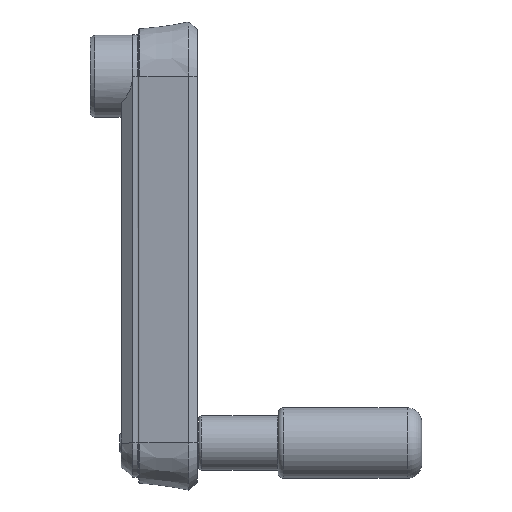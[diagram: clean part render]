
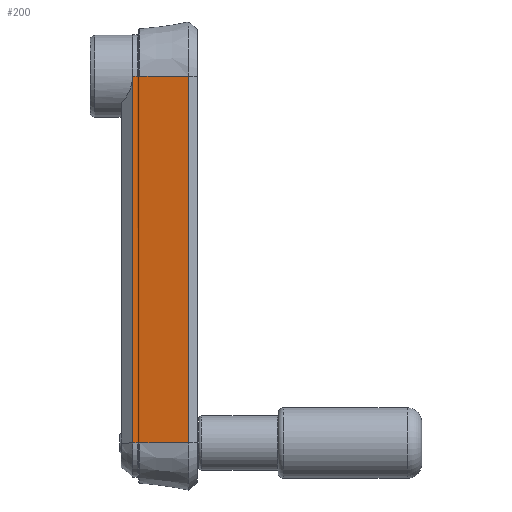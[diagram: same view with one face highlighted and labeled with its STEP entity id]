
A CAD part, top view. The second image highlights one B-rep face of the part: STEP entity #200.
In plain terms, the highlighted free-form (B-spline) face has degree [3, 1] with [12, 2] control points.
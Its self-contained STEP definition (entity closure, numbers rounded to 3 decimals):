
#200 = ADVANCED_FACE( '', ( #342 ), #343, .T. );
#342 = FACE_OUTER_BOUND( '', #599, .T. );
#343 = B_SPLINE_SURFACE_WITH_KNOTS( '', 3, 1, ( ( #600, #601 ), ( #602, #603 ), ( #604, #605 ), ( #606, #607 ), ( #608, #609 ), ( #610, #611 ), ( #612, #613 ), ( #614, #615 ), ( #616, #617 ), ( #618, #619 ), ( #620, #621 ), ( #622, #623 ) ), .UNSPECIFIED., .F., .F., .F., ( 4, 2, 2, 2, 2, 4 ), ( 2, 2 ), ( 0., 0.072, 0.11, 0.162, 0.196, 1. ), ( 0., 1. ), .UNSPECIFIED. );
#599 = EDGE_LOOP( '', ( #1016, #1017, #1018, #1019, #1020, #1021, #1022, #1023, #1024, #1025, #1026, #1027 ) );
#600 = CARTESIAN_POINT( '', ( -1.2, -125., 11.574 ) );
#601 = CARTESIAN_POINT( '', ( -1.2, 0., 14.1 ) );
#602 = CARTESIAN_POINT( '', ( -0.7, -125., 11.574 ) );
#603 = CARTESIAN_POINT( '', ( -0.7, 0., 14.1 ) );
#604 = CARTESIAN_POINT( '', ( -0.2, -125., 11.574 ) );
#605 = CARTESIAN_POINT( '', ( -0.2, 0., 14.1 ) );
#606 = CARTESIAN_POINT( '', ( 0.562, -125., 11.574 ) );
#607 = CARTESIAN_POINT( '', ( 0.562, 0., 14.1 ) );
#608 = CARTESIAN_POINT( '', ( 0.8, -125., 11.81 ) );
#609 = CARTESIAN_POINT( '', ( 0.8, 0., 14.34 ) );
#610 = CARTESIAN_POINT( '', ( 0.8, -125., 12.439 ) );
#611 = CARTESIAN_POINT( '', ( 0.8, 0., 14.96 ) );
#612 = CARTESIAN_POINT( '', ( 0.8, -125., 12.811 ) );
#613 = CARTESIAN_POINT( '', ( 0.8, 0., 15.313 ) );
#614 = CARTESIAN_POINT( '', ( 0.8, -125., 13.417 ) );
#615 = CARTESIAN_POINT( '', ( 0.8, 0., 15.91 ) );
#616 = CARTESIAN_POINT( '', ( 0.994, -125., 13.639 ) );
#617 = CARTESIAN_POINT( '', ( 0.994, 0., 16.135 ) );
#618 = CARTESIAN_POINT( '', ( 6.755, -125., 14.448 ) );
#619 = CARTESIAN_POINT( '', ( 6.758, 0., 16.945 ) );
#620 = CARTESIAN_POINT( '', ( 12.275, -125., 15.224 ) );
#621 = CARTESIAN_POINT( '', ( 12.291, 0., 17.723 ) );
#622 = CARTESIAN_POINT( '', ( 17.797, -125., 16. ) );
#623 = CARTESIAN_POINT( '', ( 17.821, 0., 18.5 ) );
#1016 = ORIENTED_EDGE( '', *, *, #1612, .T. );
#1017 = ORIENTED_EDGE( '', *, *, #1613, .F. );
#1018 = ORIENTED_EDGE( '', *, *, #1614, .F. );
#1019 = ORIENTED_EDGE( '', *, *, #1599, .F. );
#1020 = ORIENTED_EDGE( '', *, *, #1615, .F. );
#1021 = ORIENTED_EDGE( '', *, *, #1595, .F. );
#1022 = ORIENTED_EDGE( '', *, *, #1616, .F. );
#1023 = ORIENTED_EDGE( '', *, *, #1617, .F. );
#1024 = ORIENTED_EDGE( '', *, *, #1618, .F. );
#1025 = ORIENTED_EDGE( '', *, *, #1619, .F. );
#1026 = ORIENTED_EDGE( '', *, *, #1620, .T. );
#1027 = ORIENTED_EDGE( '', *, *, #1621, .F. );
#1595 = EDGE_CURVE( '', #1888, #1891, #1892, .T. );
#1599 = EDGE_CURVE( '', #1896, #1899, #1900, .T. );
#1612 = EDGE_CURVE( '', #1922, #1923, #1924, .T. );
#1613 = EDGE_CURVE( '', #1925, #1923, #1926, .T. );
#1614 = EDGE_CURVE( '', #1899, #1925, #1927, .T. );
#1615 = EDGE_CURVE( '', #1891, #1896, #1928, .T. );
#1616 = EDGE_CURVE( '', #1929, #1888, #1930, .T. );
#1617 = EDGE_CURVE( '', #1931, #1929, #1932, .T. );
#1618 = EDGE_CURVE( '', #1933, #1931, #1934, .T. );
#1619 = EDGE_CURVE( '', #1935, #1933, #1936, .T. );
#1620 = EDGE_CURVE( '', #1935, #1937, #1938, .T. );
#1621 = EDGE_CURVE( '', #1922, #1937, #1939, .T. );
#1888 = VERTEX_POINT( '', #2372 );
#1891 = VERTEX_POINT( '', #2376 );
#1892 = B_SPLINE_CURVE_WITH_KNOTS( '', 3, ( #2377, #2378, #2379, #2380 ), .UNSPECIFIED., .F., .F., ( 4, 4 ), ( 0., 1. ), .UNSPECIFIED. );
#1896 = VERTEX_POINT( '', #2387 );
#1899 = VERTEX_POINT( '', #2390 );
#1900 = B_SPLINE_CURVE_WITH_KNOTS( '', 1, ( #2391, #2392 ), .UNSPECIFIED., .F., .F., ( 2, 2 ), ( 0., 1. ), .UNSPECIFIED. );
#1922 = VERTEX_POINT( '', #2447 );
#1923 = VERTEX_POINT( '', #2448 );
#1924 = B_SPLINE_CURVE_WITH_KNOTS( '', 1, ( #2449, #2450 ), .UNSPECIFIED., .F., .F., ( 2, 2 ), ( 0., 1. ), .UNSPECIFIED. );
#1925 = VERTEX_POINT( '', #2451 );
#1926 = B_SPLINE_CURVE_WITH_KNOTS( '', 3, ( #2452, #2453, #2454, #2455 ), .UNSPECIFIED., .F., .F., ( 4, 4 ), ( 0., 1. ), .UNSPECIFIED. );
#1927 = B_SPLINE_CURVE_WITH_KNOTS( '', 3, ( #2456, #2457, #2458, #2459, #2460, #2461 ), .UNSPECIFIED., .F., .F., ( 4, 2, 4 ), ( 0., 0.5, 1. ), .UNSPECIFIED. );
#1928 = B_SPLINE_CURVE_WITH_KNOTS( '', 3, ( #2462, #2463, #2464, #2465, #2466, #2467 ), .UNSPECIFIED., .F., .F., ( 4, 2, 4 ), ( 0., 0.5, 1. ), .UNSPECIFIED. );
#1929 = VERTEX_POINT( '', #2468 );
#1930 = B_SPLINE_CURVE_WITH_KNOTS( '', 1, ( #2469, #2470 ), .UNSPECIFIED., .F., .F., ( 2, 2 ), ( 0., 1. ), .UNSPECIFIED. );
#1931 = VERTEX_POINT( '', #2471 );
#1932 = B_SPLINE_CURVE_WITH_KNOTS( '', 3, ( #2472, #2473, #2474, #2475 ), .UNSPECIFIED., .F., .F., ( 4, 4 ), ( 0., 1. ), .UNSPECIFIED. );
#1933 = VERTEX_POINT( '', #2476 );
#1934 = B_SPLINE_CURVE_WITH_KNOTS( '', 3, ( #2477, #2478, #2479, #2480, #2481, #2482 ), .UNSPECIFIED., .F., .F., ( 4, 2, 4 ), ( 0., 0.5, 1. ), .UNSPECIFIED. );
#1935 = VERTEX_POINT( '', #2483 );
#1936 = B_SPLINE_CURVE_WITH_KNOTS( '', 1, ( #2484, #2485 ), .UNSPECIFIED., .F., .F., ( 2, 2 ), ( 0., 1. ), .UNSPECIFIED. );
#1937 = VERTEX_POINT( '', #2486 );
#1938 = B_SPLINE_CURVE_WITH_KNOTS( '', 3, ( #2487, #2488, #2489, #2490 ), .UNSPECIFIED., .F., .F., ( 4, 4 ), ( 0.162, 0.196 ), .UNSPECIFIED. );
#1939 = B_SPLINE_CURVE_WITH_KNOTS( '', 3, ( #2491, #2492, #2493, #2494 ), .UNSPECIFIED., .F., .F., ( 4, 4 ), ( 0., 1. ), .UNSPECIFIED. );
#2372 = CARTESIAN_POINT( '', ( -1.2, 0., 14.1 ) );
#2376 = CARTESIAN_POINT( '', ( 0.3, 0., 14.1 ) );
#2377 = CARTESIAN_POINT( '', ( -1.2, 0., 14.1 ) );
#2378 = CARTESIAN_POINT( '', ( -0.7, 0., 14.1 ) );
#2379 = CARTESIAN_POINT( '', ( -0.2, 0., 14.1 ) );
#2380 = CARTESIAN_POINT( '', ( 0.3, 0., 14.1 ) );
#2387 = CARTESIAN_POINT( '', ( 0.8, 0., 14.6 ) );
#2390 = CARTESIAN_POINT( '', ( 0.8, 0., 15.673 ) );
#2391 = CARTESIAN_POINT( '', ( 0.8, 0., 14.6 ) );
#2392 = CARTESIAN_POINT( '', ( 0.8, 0., 15.673 ) );
#2447 = CARTESIAN_POINT( '', ( 17.797, -125., 16. ) );
#2448 = CARTESIAN_POINT( '', ( 17.821, 0., 18.5 ) );
#2449 = CARTESIAN_POINT( '', ( 17.797, -125., 16. ) );
#2450 = CARTESIAN_POINT( '', ( 17.821, 0., 18.5 ) );
#2451 = CARTESIAN_POINT( '', ( 1.23, 0., 16.168 ) );
#2452 = CARTESIAN_POINT( '', ( 1.23, 0., 16.168 ) );
#2453 = CARTESIAN_POINT( '', ( 6.76, 0., 16.946 ) );
#2454 = CARTESIAN_POINT( '', ( 12.291, 0., 17.723 ) );
#2455 = CARTESIAN_POINT( '', ( 17.821, 0., 18.5 ) );
#2456 = CARTESIAN_POINT( '', ( 0.8, 0., 15.673 ) );
#2457 = CARTESIAN_POINT( '', ( 0.8, 0., 15.793 ) );
#2458 = CARTESIAN_POINT( '', ( 0.844, 0., 15.911 ) );
#2459 = CARTESIAN_POINT( '', ( 1.001, 0., 16.091 ) );
#2460 = CARTESIAN_POINT( '', ( 1.112, 0., 16.152 ) );
#2461 = CARTESIAN_POINT( '', ( 1.23, 0., 16.168 ) );
#2462 = CARTESIAN_POINT( '', ( 0.3, 0., 14.1 ) );
#2463 = CARTESIAN_POINT( '', ( 0.431, 0., 14.1 ) );
#2464 = CARTESIAN_POINT( '', ( 0.561, 0., 14.154 ) );
#2465 = CARTESIAN_POINT( '', ( 0.746, 0., 14.339 ) );
#2466 = CARTESIAN_POINT( '', ( 0.8, 0., 14.469 ) );
#2467 = CARTESIAN_POINT( '', ( 0.8, 0., 14.6 ) );
#2468 = CARTESIAN_POINT( '', ( -1.2, -125., 11.574 ) );
#2469 = CARTESIAN_POINT( '', ( -1.2, -125., 11.574 ) );
#2470 = CARTESIAN_POINT( '', ( -1.2, 0., 14.1 ) );
#2471 = CARTESIAN_POINT( '', ( 0.3, -125., 11.574 ) );
#2472 = CARTESIAN_POINT( '', ( 0.3, -125., 11.574 ) );
#2473 = CARTESIAN_POINT( '', ( -0.2, -125., 11.574 ) );
#2474 = CARTESIAN_POINT( '', ( -0.7, -125., 11.574 ) );
#2475 = CARTESIAN_POINT( '', ( -1.2, -125., 11.574 ) );
#2476 = CARTESIAN_POINT( '', ( 0.8, -125., 12.074 ) );
#2477 = CARTESIAN_POINT( '', ( 0.8, -125., 12.074 ) );
#2478 = CARTESIAN_POINT( '', ( 0.8, -125., 11.943 ) );
#2479 = CARTESIAN_POINT( '', ( 0.746, -125., 11.813 ) );
#2480 = CARTESIAN_POINT( '', ( 0.561, -125., 11.627 ) );
#2481 = CARTESIAN_POINT( '', ( 0.431, -125., 11.574 ) );
#2482 = CARTESIAN_POINT( '', ( 0.3, -125., 11.574 ) );
#2483 = CARTESIAN_POINT( '', ( 0.8, -125., 13.177 ) );
#2484 = CARTESIAN_POINT( '', ( 0.8, -125., 13.177 ) );
#2485 = CARTESIAN_POINT( '', ( 0.8, -125., 12.074 ) );
#2486 = CARTESIAN_POINT( '', ( 1.23, -125., 13.672 ) );
#2487 = CARTESIAN_POINT( '', ( 0.8, -125., 13.177 ) );
#2488 = CARTESIAN_POINT( '', ( 0.8, -125., 13.417 ) );
#2489 = CARTESIAN_POINT( '', ( 0.994, -125., 13.639 ) );
#2490 = CARTESIAN_POINT( '', ( 1.23, -125., 13.672 ) );
#2491 = CARTESIAN_POINT( '', ( 17.797, -125., 16. ) );
#2492 = CARTESIAN_POINT( '', ( 12.275, -125., 15.224 ) );
#2493 = CARTESIAN_POINT( '', ( 6.753, -125., 14.448 ) );
#2494 = CARTESIAN_POINT( '', ( 1.23, -125., 13.672 ) );
